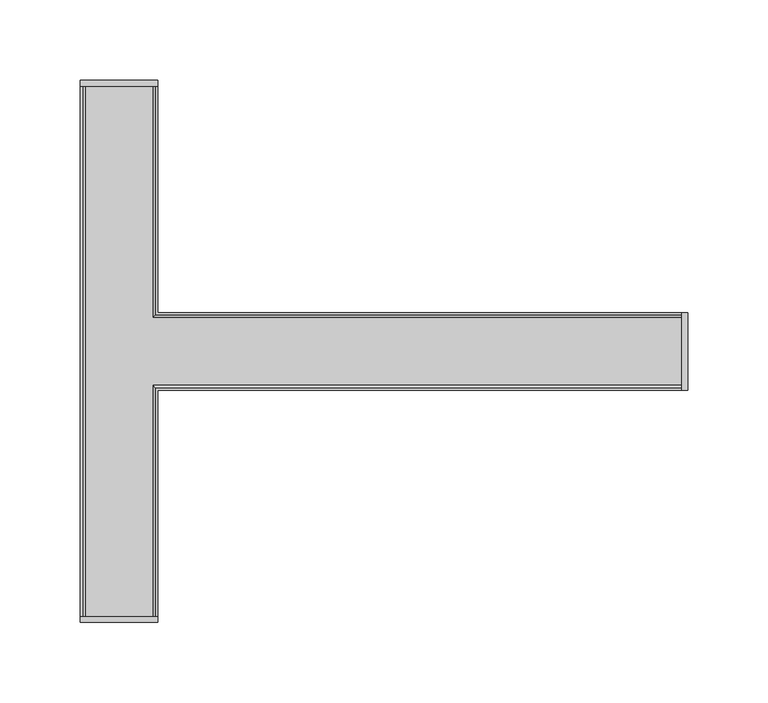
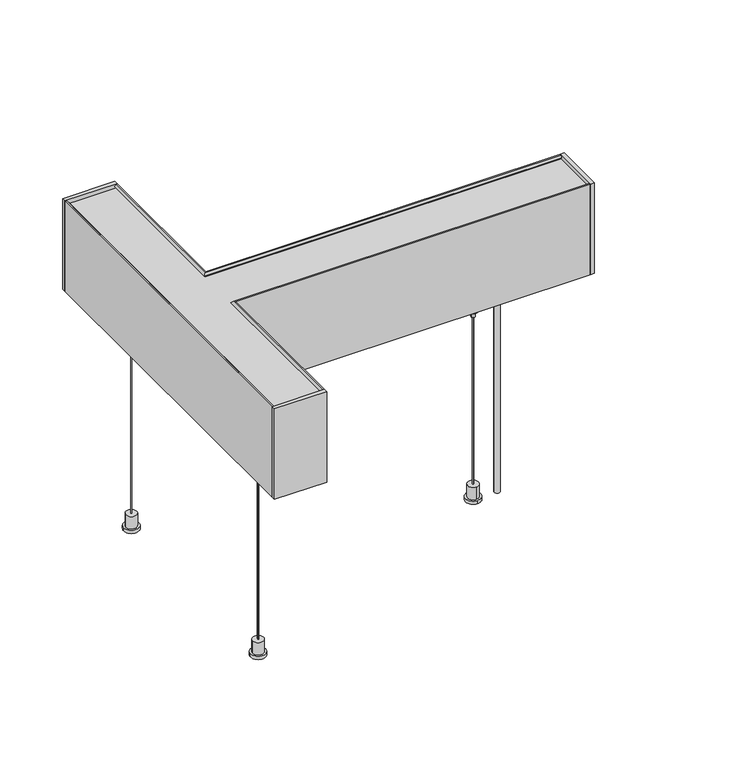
"""IFC4 building model written with IfcOpenShell, lengths in millimetres: light fixture geometry, KLUŚ - SERPENT - ZW T90 : Silver Anodized - 3000 K - 1780 lm - up, down."""

from ifc_helpers import new_model, si_unit, point, frame, frame_2d, origin, origin_with_axes, place, context, project, spatial, polyline, circle_curve, trimmed, segment, composite_curve, outline, extrude, faceted_brep, source, transform, mapped, element, save
from ifc_brep_helpers import plane_surface, revolved_surface, advanced_brep


def light_fixture_87ece87d(model_context):
    return source(origin(), model_context, "Body", "SolidModel", [
        extrude(outline(polyline([(190.5, 24.0), (190.5, -24.0), (187.0, -24.0), (187.0, 24.0), (190.5, 24.0)])), frame((0.0, 0.0, 200.0), z_axis=(0.0, 0.0, 1.0), x_axis=(1.0, 0.0, 0.0)), (0.0, 0.0, 1.0), 88.0),
        extrude(outline(polyline([(-139.0, -168.5), (-187.0, -168.5), (-187.0, -165.0), (-139.0, -165.0), (-139.0, -168.5)])), frame((0.0, 0.0, 200.0), z_axis=(0.0, 0.0, 1.0), x_axis=(1.0, 0.0, 0.0)), (0.0, 0.0, 1.0), 88.0),
        advanced_brep(
        [(-167.0, 101.0, 195.8), (-167.0, 101.0, 195.0), (-159.0, 101.0, 195.0), (-159.0, 101.0, 195.8), (-177.0, 87.0, 195.0), (-149.0, 87.0, 195.0), (-143.05, 87.0, 200.3344882), (-143.05, 87.0, 209.5), (-143.85, 87.0, 209.5), (-143.85, 87.0, 200.691693), (-149.3061136, 87.0, 195.8), (-176.6938864, 87.0, 195.8), (-182.15, 87.0, 200.691693), (-182.15, 87.0, 209.5), (-182.95, 87.0, 209.5), (-182.95, 87.0, 200.3344882), (-177.0, 115.0, 195.0), (-182.95, 115.0, 200.3344882), (-182.95, 115.0, 209.5), (-182.15, 115.0, 209.5), (-182.15, 115.0, 200.691693), (-176.6938864, 115.0, 195.8), (-149.3061136, 115.0, 195.8), (-143.85, 115.0, 200.691693), (-143.85, 115.0, 209.5), (-143.05, 115.0, 209.5), (-143.05, 115.0, 200.3344882), (-149.0, 115.0, 195.0)],
        [
            (0, 1),
            (1, 2, circle_curve(frame((-163.0, 101.0, 195.0), z_axis=(0.0, 0.0, -1.0), x_axis=(-1.0, 0.0, 0.0)), 4.0)),
            (2, 3),
            (3, 0, circle_curve(frame((-163.0, 101.0, 195.8), z_axis=(0.0, 0.0, 1.0), x_axis=(-1.0, 0.0, 0.0)), 4.0)),
            (0, 3, circle_curve(frame((-163.0, 101.0, 195.8), z_axis=(0.0, 0.0, 1.0), x_axis=(-1.0, 0.0, 0.0)), 4.0)),
            (2, 1, circle_curve(frame((-163.0, 101.0, 195.0), z_axis=(0.0, 0.0, -1.0), x_axis=(-1.0, 0.0, 0.0)), 4.0)),
            (4, 5),
            (5, 6),
            (6, 7),
            (7, 8),
            (8, 9),
            (9, 10),
            (10, 11),
            (11, 12),
            (12, 13),
            (13, 14),
            (14, 15),
            (15, 4),
            (16, 17),
            (17, 18),
            (18, 19),
            (19, 20),
            (20, 21),
            (21, 22),
            (22, 23),
            (23, 24),
            (24, 25),
            (25, 26),
            (26, 27),
            (27, 16),
            (4, 16),
            (27, 5),
            (26, 6),
            (25, 7),
            (24, 8),
            (23, 9),
            (22, 10),
            (21, 11),
            (20, 12),
            (19, 13),
            (18, 14),
            (17, 15),
        ],
        [
            revolved_surface(polyline([(-167.0, 101.0, 195.8), (-167.0, 101.0, 195.0)]), (-163.0, 101.0, 195.0), (0.0, 0.0, 1.0)),
            plane_surface(frame((-163.0, 87.0, 209.5), z_axis=(0.0, -1.0, 0.0), x_axis=(0.0, 0.0, 1.0))),
            plane_surface(frame((-163.0, 115.0, 209.5), z_axis=(0.0, 1.0, 0.0), x_axis=(0.0, 0.0, 1.0))),
            plane_surface(frame((-177.0, 87.0, 195.0), z_axis=(0.0, 0.0, -1.0), x_axis=(0.0, 1.0, 0.0))),
            plane_surface(frame((-149.0, 87.0, 195.0), z_axis=(0.6675453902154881, 0.0, -0.7445691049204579), x_axis=(0.0, 1.0, 0.0))),
            plane_surface(frame((-143.05, 87.0, 200.3344882), z_axis=(1.0, 0.0, 0.0), x_axis=(0.0, 1.0, 0.0))),
            plane_surface(frame((-143.05, 87.0, 209.5), z_axis=(0.0, 0.0, 1.0), x_axis=(0.0, 1.0, 0.0))),
            plane_surface(frame((-143.85, 87.0, 209.5), z_axis=(-1.0, 0.0, 0.0), x_axis=(0.0, 1.0, 0.0))),
            plane_surface(frame((-143.85, 87.0, 200.691693), z_axis=(-0.6675453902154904, 0.0, 0.7445691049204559), x_axis=(0.0, 1.0, 0.0))),
            plane_surface(frame((-149.3061136, 87.0, 195.8), z_axis=(0.0, 0.0, 1.0), x_axis=(0.0, 1.0, 0.0))),
            plane_surface(frame((-176.6938864, 87.0, 195.8), z_axis=(0.6675453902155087, 0.0, 0.7445691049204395), x_axis=(0.0, 1.0, 0.0))),
            plane_surface(frame((-182.15, 87.0, 200.691693), z_axis=(1.0, 0.0, 0.0), x_axis=(0.0, 1.0, 0.0))),
            plane_surface(frame((-182.15, 87.0, 209.5), z_axis=(0.0, 0.0, 1.0), x_axis=(0.0, 1.0, 0.0))),
            plane_surface(frame((-182.95, 87.0, 209.5), z_axis=(-1.0, 0.0, 0.0), x_axis=(0.0, 1.0, 0.0))),
            plane_surface(frame((-182.95, 87.0, 200.3344882), z_axis=(-0.6675453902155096, 0.0, -0.7445691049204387), x_axis=(0.0, 1.0, 0.0))),
        ],
        [
            (0, [[1, 2, 3, 4]]),
            (0, [[-1, 5, -3, 6]]),
            (1, [[7, 8, 9, 10, 11, 12, 13, 14, 15, 16, 17, 18]]),
            (2, [[19, 20, 21, 22, 23, 24, 25, 26, 27, 28, 29, 30]]),
            (3, [[-7, 31, -30, 32], [-2, -6]]),
            (4, [[-8, -32, -29, 33]]),
            (5, [[-9, -33, -28, 34]]),
            (6, [[-10, -34, -27, 35]]),
            (7, [[-11, -35, -26, 36]]),
            (8, [[-12, -36, -25, 37]]),
            (9, [[-13, -37, -24, 38], [-4, -5]]),
            (10, [[-14, -38, -23, 39]]),
            (11, [[-15, -39, -22, 40]]),
            (12, [[-16, -40, -21, 41]]),
            (13, [[-17, -41, -20, 42]]),
            (14, [[-18, -42, -19, -31]]),
        ],
    ),
        extrude(outline(composite_curve([segment(trimmed(circle_curve(frame_2d((-163.0, 101.0)), 0.5), [point((-162.5, 101.0))], [point((-163.5, 101.0))], False, "CARTESIAN"), True, "CONTINUOUS"), segment(trimmed(circle_curve(frame_2d((-163.0, 101.0)), 0.5), [point((-163.5, 101.0))], [point((-162.5, 101.0))], False, "CARTESIAN"), True, "CONTINUOUS")], self_intersect=False)), frame((0.0, 0.0, 15.0), z_axis=(0.0, 0.0, 1.0), x_axis=(1.0, 0.0, 0.0)), (0.0, 0.0, 1.0), 163.0),
        extrude(outline(composite_curve([segment(trimmed(circle_curve(frame_2d((-163.0, 101.0)), 5.0), [point((-158.0, 101.0))], [point((-168.0, 101.0))], False, "CARTESIAN"), True, "CONTINUOUS"), segment(trimmed(circle_curve(frame_2d((-163.0, 101.0)), 5.0), [point((-168.0, 101.0))], [point((-158.0, 101.0))], False, "CARTESIAN"), True, "CONTINUOUS")], self_intersect=False)), frame((0.0, 0.0, 3.0), z_axis=(0.0, 0.0, 1.0), x_axis=(1.0, 0.0, 0.0)), (0.0, 0.0, 1.0), 12.0),
        extrude(outline(composite_curve([segment(trimmed(circle_curve(frame_2d((-163.0, 101.0)), 7.0), [point((-156.0, 101.0))], [point((-170.0, 101.0))], False, "CARTESIAN"), True, "CONTINUOUS"), segment(trimmed(circle_curve(frame_2d((-163.0, 101.0)), 7.0), [point((-170.0, 101.0))], [point((-156.0, 101.0))], False, "CARTESIAN"), True, "CONTINUOUS")], self_intersect=False)), origin_with_axes(), (0.0, 0.0, 1.0), 3.0),
        extrude(outline(composite_curve([segment(trimmed(circle_curve(frame_2d((-163.0, 101.0)), 1.75), [point((-163.0, 102.75))], [point((-163.0, 99.25))], False, "CARTESIAN"), True, "CONTINUOUS"), segment(trimmed(circle_curve(frame_2d((-163.0, 101.0)), 1.75), [point((-163.0, 99.25))], [point((-163.0, 102.75))], False, "CARTESIAN"), True, "CONTINUOUS")], self_intersect=False)), frame((0.0, 0.0, 178.0), z_axis=(0.0, 0.0, 1.0), x_axis=(1.0, 0.0, 0.0)), (0.0, 0.0, 1.0), 5.0),
        extrude(outline(composite_curve([segment(trimmed(circle_curve(frame_2d((-163.0, 101.0)), 4.0), [point((-159.0, 101.0))], [point((-167.0, 101.0))], False, "CARTESIAN"), True, "CONTINUOUS"), segment(trimmed(circle_curve(frame_2d((-163.0, 101.0)), 4.0), [point((-167.0, 101.0))], [point((-159.0, 101.0))], False, "CARTESIAN"), True, "CONTINUOUS")], self_intersect=False)), frame((0.0, 0.0, 183.0), z_axis=(0.0, 0.0, 1.0), x_axis=(1.0, 0.0, 0.0)), (0.0, 0.0, 1.0), 12.8),
        extrude(outline(composite_curve([segment(trimmed(circle_curve(frame_2d((-163.0, 101.0)), 10.0), [point((-153.0, 101.0))], [point((-173.0, 101.0))], False, "CARTESIAN"), True, "CONTINUOUS"), segment(trimmed(circle_curve(frame_2d((-163.0, 101.0)), 10.0), [point((-173.0, 101.0))], [point((-153.0, 101.0))], False, "CARTESIAN"), True, "CONTINUOUS")], self_intersect=False)), frame((0.0, 0.0, 195.8), z_axis=(0.0, 0.0, 1.0), x_axis=(1.0, 0.0, 0.0)), (0.0, 0.0, 1.0), 2.0),
        advanced_brep(
        [(-167.0, -101.0, 195.8), (-167.0, -101.0, 195.0), (-159.0, -101.0, 195.0), (-159.0, -101.0, 195.8), (-177.0, -115.0, 195.0), (-149.0, -115.0, 195.0), (-143.05, -115.0, 200.3344882), (-143.05, -115.0, 209.5), (-143.85, -115.0, 209.5), (-143.85, -115.0, 200.691693), (-149.3061136, -115.0, 195.8), (-176.6938864, -115.0, 195.8), (-182.15, -115.0, 200.691693), (-182.15, -115.0, 209.5), (-182.95, -115.0, 209.5), (-182.95, -115.0, 200.3344882), (-177.0, -87.0, 195.0), (-182.95, -87.0, 200.3344882), (-182.95, -87.0, 209.5), (-182.15, -87.0, 209.5), (-182.15, -87.0, 200.691693), (-176.6938864, -87.0, 195.8), (-149.3061136, -87.0, 195.8), (-143.85, -87.0, 200.691693), (-143.85, -87.0, 209.5), (-143.05, -87.0, 209.5), (-143.05, -87.0, 200.3344882), (-149.0, -87.0, 195.0)],
        [
            (0, 1),
            (1, 2, circle_curve(frame((-163.0, -101.0, 195.0), z_axis=(0.0, 0.0, -1.0), x_axis=(-1.0, 0.0, 0.0)), 4.0)),
            (2, 3),
            (3, 0, circle_curve(frame((-163.0, -101.0, 195.8), z_axis=(0.0, 0.0, 1.0), x_axis=(-1.0, 0.0, 0.0)), 4.0)),
            (0, 3, circle_curve(frame((-163.0, -101.0, 195.8), z_axis=(0.0, 0.0, 1.0), x_axis=(-1.0, 0.0, 0.0)), 4.0)),
            (2, 1, circle_curve(frame((-163.0, -101.0, 195.0), z_axis=(0.0, 0.0, -1.0), x_axis=(-1.0, 0.0, 0.0)), 4.0)),
            (4, 5),
            (5, 6),
            (6, 7),
            (7, 8),
            (8, 9),
            (9, 10),
            (10, 11),
            (11, 12),
            (12, 13),
            (13, 14),
            (14, 15),
            (15, 4),
            (16, 17),
            (17, 18),
            (18, 19),
            (19, 20),
            (20, 21),
            (21, 22),
            (22, 23),
            (23, 24),
            (24, 25),
            (25, 26),
            (26, 27),
            (27, 16),
            (4, 16),
            (27, 5),
            (26, 6),
            (25, 7),
            (24, 8),
            (23, 9),
            (22, 10),
            (21, 11),
            (20, 12),
            (19, 13),
            (18, 14),
            (17, 15),
        ],
        [
            revolved_surface(polyline([(-167.0, -101.0, 195.8), (-167.0, -101.0, 195.0)]), (-163.0, -101.0, 195.0), (0.0, 0.0, 1.0)),
            plane_surface(frame((-163.0, -115.0, 209.5), z_axis=(0.0, -1.0, 0.0), x_axis=(0.0, 0.0, 1.0))),
            plane_surface(frame((-163.0, -87.0, 209.5), z_axis=(0.0, 1.0, 0.0), x_axis=(0.0, 0.0, 1.0))),
            plane_surface(frame((-177.0, -115.0, 195.0), z_axis=(0.0, 0.0, -1.0), x_axis=(0.0, 1.0, 0.0))),
            plane_surface(frame((-149.0, -115.0, 195.0), z_axis=(0.6675453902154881, 0.0, -0.7445691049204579), x_axis=(0.0, 1.0, 0.0))),
            plane_surface(frame((-143.05, -115.0, 200.3344882), z_axis=(1.0, 0.0, 0.0), x_axis=(0.0, 1.0, 0.0))),
            plane_surface(frame((-143.05, -115.0, 209.5), z_axis=(0.0, 0.0, 1.0), x_axis=(0.0, 1.0, 0.0))),
            plane_surface(frame((-143.85, -115.0, 209.5), z_axis=(-1.0, 0.0, 0.0), x_axis=(0.0, 1.0, 0.0))),
            plane_surface(frame((-143.85, -115.0, 200.691693), z_axis=(-0.6675453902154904, 0.0, 0.7445691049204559), x_axis=(0.0, 1.0, 0.0))),
            plane_surface(frame((-149.3061136, -115.0, 195.8), z_axis=(0.0, 0.0, 1.0), x_axis=(0.0, 1.0, 0.0))),
            plane_surface(frame((-176.6938864, -115.0, 195.8), z_axis=(0.6675453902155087, 0.0, 0.7445691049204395), x_axis=(0.0, 1.0, 0.0))),
            plane_surface(frame((-182.15, -115.0, 200.691693), z_axis=(1.0, 0.0, 0.0), x_axis=(0.0, 1.0, 0.0))),
            plane_surface(frame((-182.15, -115.0, 209.5), z_axis=(0.0, 0.0, 1.0), x_axis=(0.0, 1.0, 0.0))),
            plane_surface(frame((-182.95, -115.0, 209.5), z_axis=(-1.0, 0.0, 0.0), x_axis=(0.0, 1.0, 0.0))),
            plane_surface(frame((-182.95, -115.0, 200.3344882), z_axis=(-0.6675453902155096, 0.0, -0.7445691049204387), x_axis=(0.0, 1.0, 0.0))),
        ],
        [
            (0, [[1, 2, 3, 4]]),
            (0, [[-1, 5, -3, 6]]),
            (1, [[7, 8, 9, 10, 11, 12, 13, 14, 15, 16, 17, 18]]),
            (2, [[19, 20, 21, 22, 23, 24, 25, 26, 27, 28, 29, 30]]),
            (3, [[-7, 31, -30, 32], [-2, -6]]),
            (4, [[-8, -32, -29, 33]]),
            (5, [[-9, -33, -28, 34]]),
            (6, [[-10, -34, -27, 35]]),
            (7, [[-11, -35, -26, 36]]),
            (8, [[-12, -36, -25, 37]]),
            (9, [[-13, -37, -24, 38], [-4, -5]]),
            (10, [[-14, -38, -23, 39]]),
            (11, [[-15, -39, -22, 40]]),
            (12, [[-16, -40, -21, 41]]),
            (13, [[-17, -41, -20, 42]]),
            (14, [[-18, -42, -19, -31]]),
        ],
    ),
        extrude(outline(composite_curve([segment(trimmed(circle_curve(frame_2d((-163.0, -101.0)), 0.5), [point((-162.5, -101.0))], [point((-163.5, -101.0))], False, "CARTESIAN"), True, "CONTINUOUS"), segment(trimmed(circle_curve(frame_2d((-163.0, -101.0)), 0.5), [point((-163.5, -101.0))], [point((-162.5, -101.0))], False, "CARTESIAN"), True, "CONTINUOUS")], self_intersect=False)), frame((0.0, 0.0, 15.0), z_axis=(0.0, 0.0, 1.0), x_axis=(1.0, 0.0, 0.0)), (0.0, 0.0, 1.0), 163.0),
        extrude(outline(composite_curve([segment(trimmed(circle_curve(frame_2d((-163.0, -101.0)), 5.0), [point((-158.0, -101.0))], [point((-168.0, -101.0))], False, "CARTESIAN"), True, "CONTINUOUS"), segment(trimmed(circle_curve(frame_2d((-163.0, -101.0)), 5.0), [point((-168.0, -101.0))], [point((-158.0, -101.0))], False, "CARTESIAN"), True, "CONTINUOUS")], self_intersect=False)), frame((0.0, 0.0, 3.0), z_axis=(0.0, 0.0, 1.0), x_axis=(1.0, 0.0, 0.0)), (0.0, 0.0, 1.0), 12.0),
        extrude(outline(composite_curve([segment(trimmed(circle_curve(frame_2d((-163.0, -101.0)), 7.0), [point((-156.0, -101.0))], [point((-170.0, -101.0))], False, "CARTESIAN"), True, "CONTINUOUS"), segment(trimmed(circle_curve(frame_2d((-163.0, -101.0)), 7.0), [point((-170.0, -101.0))], [point((-156.0, -101.0))], False, "CARTESIAN"), True, "CONTINUOUS")], self_intersect=False)), origin_with_axes(), (0.0, 0.0, 1.0), 3.0),
        extrude(outline(composite_curve([segment(trimmed(circle_curve(frame_2d((-163.0, -101.0)), 1.75), [point((-163.0, -99.25))], [point((-163.0, -102.75))], False, "CARTESIAN"), True, "CONTINUOUS"), segment(trimmed(circle_curve(frame_2d((-163.0, -101.0)), 1.75), [point((-163.0, -102.75))], [point((-163.0, -99.25))], False, "CARTESIAN"), True, "CONTINUOUS")], self_intersect=False)), frame((0.0, 0.0, 178.0), z_axis=(0.0, 0.0, 1.0), x_axis=(1.0, 0.0, 0.0)), (0.0, 0.0, 1.0), 5.0),
        extrude(outline(composite_curve([segment(trimmed(circle_curve(frame_2d((-163.0, -101.0)), 4.0), [point((-159.0, -101.0))], [point((-167.0, -101.0))], False, "CARTESIAN"), True, "CONTINUOUS"), segment(trimmed(circle_curve(frame_2d((-163.0, -101.0)), 4.0), [point((-167.0, -101.0))], [point((-159.0, -101.0))], False, "CARTESIAN"), True, "CONTINUOUS")], self_intersect=False)), frame((0.0, 0.0, 183.0), z_axis=(0.0, 0.0, 1.0), x_axis=(1.0, 0.0, 0.0)), (0.0, 0.0, 1.0), 12.8),
        extrude(outline(composite_curve([segment(trimmed(circle_curve(frame_2d((-163.0, -101.0)), 10.0), [point((-153.0, -101.0))], [point((-173.0, -101.0))], False, "CARTESIAN"), True, "CONTINUOUS"), segment(trimmed(circle_curve(frame_2d((-163.0, -101.0)), 10.0), [point((-173.0, -101.0))], [point((-153.0, -101.0))], False, "CARTESIAN"), True, "CONTINUOUS")], self_intersect=False)), frame((0.0, 0.0, 195.8), z_axis=(0.0, 0.0, 1.0), x_axis=(1.0, 0.0, 0.0)), (0.0, 0.0, 1.0), 2.0),
        extrude(outline(polyline([(-187.0, 168.5), (-139.0, 168.5), (-139.0, 165.0), (-187.0, 165.0), (-187.0, 168.5)])), frame((0.0, 0.0, 200.0), z_axis=(0.0, 0.0, 1.0), x_axis=(1.0, 0.0, 0.0)), (0.0, 0.0, 1.0), 88.0),
        advanced_brep(
        [(93.0, 4.0, 195.8), (93.0, 4.0, 195.0), (93.0, -4.0, 195.0), (93.0, -4.0, 195.8), (79.0, 14.0, 195.0), (79.0, -14.0, 195.0), (79.0, -19.95, 200.3344882), (79.0, -19.95, 209.5), (79.0, -19.15, 209.5), (79.0, -19.15, 200.691693), (79.0, -13.6938864, 195.8), (79.0, 13.6938864, 195.8), (79.0, 19.15, 200.691693), (79.0, 19.15, 209.5), (79.0, 19.95, 209.5), (79.0, 19.95, 200.3344882), (107.0, 14.0, 195.0), (107.0, 19.95, 200.3344882), (107.0, 19.95, 209.5), (107.0, 19.15, 209.5), (107.0, 19.15, 200.691693), (107.0, 13.6938864, 195.8), (107.0, -13.6938864, 195.8), (107.0, -19.15, 200.691693), (107.0, -19.15, 209.5), (107.0, -19.95, 209.5), (107.0, -19.95, 200.3344882), (107.0, -14.0, 195.0)],
        [
            (0, 1),
            (1, 2, circle_curve(frame((93.0, 0.0, 195.0), z_axis=(0.0, 0.0, -1.0), x_axis=(0.0, 1.0, 0.0)), 4.0)),
            (2, 3),
            (3, 0, circle_curve(frame((93.0, 0.0, 195.8), z_axis=(0.0, 0.0, 1.0), x_axis=(0.0, 1.0, 0.0)), 4.0)),
            (0, 3, circle_curve(frame((93.0, 0.0, 195.8), z_axis=(0.0, 0.0, 1.0), x_axis=(0.0, 1.0, 0.0)), 4.0)),
            (2, 1, circle_curve(frame((93.0, 0.0, 195.0), z_axis=(0.0, 0.0, -1.0), x_axis=(0.0, 1.0, 0.0)), 4.0)),
            (4, 5),
            (5, 6),
            (6, 7),
            (7, 8),
            (8, 9),
            (9, 10),
            (10, 11),
            (11, 12),
            (12, 13),
            (13, 14),
            (14, 15),
            (15, 4),
            (16, 17),
            (17, 18),
            (18, 19),
            (19, 20),
            (20, 21),
            (21, 22),
            (22, 23),
            (23, 24),
            (24, 25),
            (25, 26),
            (26, 27),
            (27, 16),
            (4, 16),
            (27, 5),
            (26, 6),
            (25, 7),
            (24, 8),
            (23, 9),
            (22, 10),
            (21, 11),
            (20, 12),
            (19, 13),
            (18, 14),
            (17, 15),
        ],
        [
            revolved_surface(polyline([(93.0, 4.0, 195.8), (93.0, 4.0, 195.0)]), (93.0, 0.0, 195.0), (0.0, 0.0, 1.0)),
            plane_surface(frame((79.0, 0.0, 209.5), z_axis=(-1.0, 0.0, 0.0), x_axis=(0.0, 0.0, 1.0))),
            plane_surface(frame((107.0, 0.0, 209.5), z_axis=(1.0, 0.0, 0.0), x_axis=(0.0, 0.0, 1.0))),
            plane_surface(frame((79.0, 14.0, 195.0), z_axis=(0.0, 0.0, -1.0), x_axis=(1.0, 0.0, 0.0))),
            plane_surface(frame((79.0, -14.0, 195.0), z_axis=(0.0, -0.6675453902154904, -0.7445691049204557), x_axis=(1.0, 0.0, 0.0))),
            plane_surface(frame((79.0, -19.95, 200.3344882), z_axis=(0.0, -1.0, 0.0), x_axis=(1.0, 0.0, 0.0))),
            plane_surface(frame((79.0, -19.95, 209.5), z_axis=(0.0, 0.0, 1.0), x_axis=(1.0, 0.0, 0.0))),
            plane_surface(frame((79.0, -19.15, 209.5), z_axis=(0.0, 1.0, 0.0), x_axis=(1.0, 0.0, 0.0))),
            plane_surface(frame((79.0, -19.15, 200.691693), z_axis=(0.0, 0.6675453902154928, 0.7445691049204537), x_axis=(1.0, 0.0, 0.0))),
            plane_surface(frame((79.0, -13.6938864, 195.8), z_axis=(0.0, 0.0, 1.0), x_axis=(1.0, 0.0, 0.0))),
            plane_surface(frame((79.0, 13.6938864, 195.8), z_axis=(0.0, -0.6675453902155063, 0.7445691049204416), x_axis=(1.0, 0.0, 0.0))),
            plane_surface(frame((79.0, 19.15, 200.691693), z_axis=(0.0, -1.0, 0.0), x_axis=(1.0, 0.0, 0.0))),
            plane_surface(frame((79.0, 19.15, 209.5), z_axis=(0.0, 0.0, 1.0), x_axis=(1.0, 0.0, 0.0))),
            plane_surface(frame((79.0, 19.95, 209.5), z_axis=(0.0, 1.0, 0.0), x_axis=(1.0, 0.0, 0.0))),
            plane_surface(frame((79.0, 19.95, 200.3344882), z_axis=(0.0, 0.6675453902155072, -0.7445691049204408), x_axis=(1.0, 0.0, 0.0))),
        ],
        [
            (0, [[1, 2, 3, 4]]),
            (0, [[-1, 5, -3, 6]]),
            (1, [[7, 8, 9, 10, 11, 12, 13, 14, 15, 16, 17, 18]]),
            (2, [[19, 20, 21, 22, 23, 24, 25, 26, 27, 28, 29, 30]]),
            (3, [[-7, 31, -30, 32], [-2, -6]]),
            (4, [[-8, -32, -29, 33]]),
            (5, [[-9, -33, -28, 34]]),
            (6, [[-10, -34, -27, 35]]),
            (7, [[-11, -35, -26, 36]]),
            (8, [[-12, -36, -25, 37]]),
            (9, [[-13, -37, -24, 38], [-4, -5]]),
            (10, [[-14, -38, -23, 39]]),
            (11, [[-15, -39, -22, 40]]),
            (12, [[-16, -40, -21, 41]]),
            (13, [[-17, -41, -20, 42]]),
            (14, [[-18, -42, -19, -31]]),
        ],
    ),
        extrude(outline(composite_curve([segment(trimmed(circle_curve(frame_2d((93.0, 0.0)), 0.5), [point((93.0, -0.5))], [point((93.0, 0.5))], False, "CARTESIAN"), True, "CONTINUOUS"), segment(trimmed(circle_curve(frame_2d((93.0, 0.0)), 0.5), [point((93.0, 0.5))], [point((93.0, -0.5))], False, "CARTESIAN"), True, "CONTINUOUS")], self_intersect=False)), frame((0.0, 0.0, 15.0), z_axis=(0.0, 0.0, 1.0), x_axis=(1.0, 0.0, 0.0)), (0.0, 0.0, 1.0), 163.0),
        extrude(outline(composite_curve([segment(trimmed(circle_curve(frame_2d((93.0, 0.0)), 5.0), [point((93.0, -5.0))], [point((93.0, 5.0))], False, "CARTESIAN"), True, "CONTINUOUS"), segment(trimmed(circle_curve(frame_2d((93.0, 0.0)), 5.0), [point((93.0, 5.0))], [point((93.0, -5.0))], False, "CARTESIAN"), True, "CONTINUOUS")], self_intersect=False)), frame((0.0, 0.0, 3.0), z_axis=(0.0, 0.0, 1.0), x_axis=(1.0, 0.0, 0.0)), (0.0, 0.0, 1.0), 12.0),
        extrude(outline(composite_curve([segment(trimmed(circle_curve(frame_2d((93.0, 0.0)), 7.0), [point((93.0, -7.0))], [point((93.0, 7.0))], False, "CARTESIAN"), True, "CONTINUOUS"), segment(trimmed(circle_curve(frame_2d((93.0, 0.0)), 7.0), [point((93.0, 7.0))], [point((93.0, -7.0))], False, "CARTESIAN"), True, "CONTINUOUS")], self_intersect=False)), origin_with_axes(), (0.0, 0.0, 1.0), 3.0),
        extrude(outline(composite_curve([segment(trimmed(circle_curve(frame_2d((93.0, 0.0)), 1.75), [point((94.75, 0.0))], [point((91.25, 0.0))], False, "CARTESIAN"), True, "CONTINUOUS"), segment(trimmed(circle_curve(frame_2d((93.0, 0.0)), 1.75), [point((91.25, 0.0))], [point((94.75, 0.0))], False, "CARTESIAN"), True, "CONTINUOUS")], self_intersect=False)), frame((0.0, 0.0, 178.0), z_axis=(0.0, 0.0, 1.0), x_axis=(1.0, 0.0, 0.0)), (0.0, 0.0, 1.0), 5.0),
        extrude(outline(composite_curve([segment(trimmed(circle_curve(frame_2d((93.0, 0.0)), 4.0), [point((93.0, -4.0))], [point((93.0, 4.0))], False, "CARTESIAN"), True, "CONTINUOUS"), segment(trimmed(circle_curve(frame_2d((93.0, 0.0)), 4.0), [point((93.0, 4.0))], [point((93.0, -4.0))], False, "CARTESIAN"), True, "CONTINUOUS")], self_intersect=False)), frame((0.0, 0.0, 183.0), z_axis=(0.0, 0.0, 1.0), x_axis=(1.0, 0.0, 0.0)), (0.0, 0.0, 1.0), 12.8),
        extrude(outline(composite_curve([segment(trimmed(circle_curve(frame_2d((93.0, 0.0)), 10.0), [point((93.0, -10.0))], [point((93.0, 10.0))], False, "CARTESIAN"), True, "CONTINUOUS"), segment(trimmed(circle_curve(frame_2d((93.0, 0.0)), 10.0), [point((93.0, 10.0))], [point((93.0, -10.0))], False, "CARTESIAN"), True, "CONTINUOUS")], self_intersect=False)), frame((0.0, 0.0, 195.8), z_axis=(0.0, 0.0, 1.0), x_axis=(1.0, 0.0, 0.0)), (0.0, 0.0, 1.0), 2.0),
        faceted_brep([(-143.05, -165.0, 200.0), (-139.0, -165.0, 200.0), (-139.0, -165.0, 288.0), (-140.35, -165.0, 288.0), (-141.85, -165.0, 286.2514719), (-140.35, -165.0, 284.5), (-140.35, -165.0, 208.7), (-143.05, -165.0, 208.7), (187.0, -19.95, 200.0), (187.0, -19.95, 208.7), (187.0, -22.65, 208.7), (187.0, -22.65, 284.5), (187.0, -21.15, 286.2514719), (187.0, -22.65, 288.0), (187.0, -24.0, 288.0), (187.0, -24.0, 200.0), (-143.05, -19.95, 200.0), (-143.05, -19.95, 208.7), (-140.35, -22.65, 208.7), (-140.35, -22.65, 284.5), (-141.85, -21.15, 286.2514719), (-140.35, -22.65, 288.0), (-139.0, -24.0, 288.0), (-139.0, -24.0, 200.0)], [[[0, 1, 2, 3, 4, 5, 6, 7]], [[8, 9, 10, 11, 12, 13, 14, 15]], [[16, 17, 9, 8]], [[18, 19, 11, 10]], [[19, 20, 12, 11]], [[20, 21, 13, 12]], [[22, 23, 15, 14]], [[0, 7, 17, 16]], [[7, 6, 18, 10, 9, 17]], [[6, 5, 19, 18]], [[5, 4, 20, 19]], [[4, 3, 21, 20]], [[3, 2, 22, 14, 13, 21]], [[2, 1, 23, 22]], [[1, 0, 16, 8, 15, 23]]]),
        faceted_brep([(-143.05, 165.0, 200.0), (-143.05, 165.0, 208.7), (-140.35, 165.0, 208.7), (-140.35, 165.0, 284.5), (-141.85, 165.0, 286.2514719), (-140.35, 165.0, 288.0), (-139.0, 165.0, 288.0), (-139.0, 165.0, 200.0), (187.0, 19.95, 200.0), (187.0, 24.0, 200.0), (187.0, 24.0, 288.0), (187.0, 22.65, 288.0), (187.0, 21.15, 286.2514719), (187.0, 22.65, 284.5), (187.0, 22.65, 208.7), (187.0, 19.95, 208.7), (-143.05, 19.95, 208.7), (-143.05, 19.95, 200.0), (-140.35, 22.65, 284.5), (-140.35, 22.65, 208.7), (-141.85, 21.15, 286.2514719), (-140.35, 22.65, 288.0), (-139.0, 24.0, 200.0), (-139.0, 24.0, 288.0)], [[[0, 1, 2, 3, 4, 5, 6, 7]], [[8, 9, 10, 11, 12, 13, 14, 15]], [[16, 17, 8, 15]], [[18, 19, 14, 13]], [[20, 18, 13, 12]], [[21, 20, 12, 11]], [[22, 23, 10, 9]], [[1, 0, 17, 16]], [[2, 1, 16, 15, 14, 19]], [[3, 2, 19, 18]], [[4, 3, 18, 20]], [[5, 4, 20, 21]], [[6, 5, 21, 11, 10, 23]], [[7, 6, 23, 22]], [[0, 7, 22, 9, 8, 17]]]),
        extrude(outline(polyline([(187.0, 22.65), (187.0, -22.65), (-140.35, -22.65), (-140.35, -165.0), (-185.65, -165.0), (-185.65, 165.0), (-140.35, 165.0), (-140.35, 22.65), (187.0, 22.65)])), frame((0.0, 0.0, 209.5), z_axis=(0.0, 0.0, 1.0), x_axis=(1.0, 0.0, 0.0)), (0.0, 0.0, 1.0), 1.5),
        extrude(outline(polyline([(187.0, 22.65), (187.0, -22.65), (-140.35, -22.65), (-140.35, -165.0), (-185.65, -165.0), (-185.65, 165.0), (-140.35, 165.0), (-140.35, 22.65), (187.0, 22.65)])), frame((0.0, 0.0, 219.0), z_axis=(0.0, 0.0, 1.0), x_axis=(1.0, 0.0, 0.0)), (0.0, 0.0, 1.0), 2.0),
        extrude(outline(polyline([(187.0, 22.65), (187.0, -22.65), (-140.35, -22.65), (-140.35, -165.0), (-185.65, -165.0), (-185.65, 165.0), (-140.35, 165.0), (-140.35, 22.65), (187.0, 22.65)])), frame((0.0, 0.0, 254.5), z_axis=(0.0, 0.0, 1.0), x_axis=(1.0, 0.0, 0.0)), (0.0, 0.0, 1.0), 1.5),
        extrude(outline(polyline([(-185.65, 165.0), (-140.35, 165.0), (-140.35, 22.65), (187.0, 22.65), (187.0, -22.65), (-140.35, -22.65), (-140.35, -165.0), (-185.65, -165.0), (-185.65, 165.0)])), frame((0.0, 0.0, 283.0), z_axis=(0.0, 0.0, 1.0), x_axis=(1.0, 0.0, 0.0)), (0.0, 0.0, 1.0), 1.5),
        extrude(outline(polyline([(200.0, -182.95), (208.7, -182.95), (208.7, -185.65), (284.5, -185.65), (286.1989148, -184.1049132), (288.0, -185.65), (288.0, -187.0), (200.0, -187.0), (200.0, -182.95)])), frame((0.0, -165.0, 0.0), z_axis=(0.0, 1.0, 0.0), x_axis=(0.0, 0.0, 1.0)), (0.0, 0.0, 1.0), 330.0),
        extrude(outline(composite_curve([segment(trimmed(circle_curve(frame_2d((115.0, 0.0)), 2.5), [point((117.5, 0.0))], [point((112.5, 0.0))], False, "CARTESIAN"), True, "CONTINUOUS"), segment(trimmed(circle_curve(frame_2d((115.0, 0.0)), 2.5), [point((112.5, 0.0))], [point((117.5, 0.0))], False, "CARTESIAN"), True, "CONTINUOUS")], self_intersect=False)), origin_with_axes(), (0.0, 0.0, 1.0), 219.0),
    ])


if __name__ == "__main__":
    model = new_model("IFC4")
    model_context = context("Model", 3, world=origin())
    ifc_project = project(units=[si_unit("LENGTHUNIT", "METRE", prefix="MILLI")], contexts=[model_context])
    site = spatial("IfcSite", under=ifc_project)
    building = spatial("IfcBuilding", under=site)
    placement = place(None, origin())
    light_fixture_shape = light_fixture_87ece87d(model_context)
    element("IfcLightFixture", 1, ObjectType="KLUŚ - SERPENT - ZW T90 : Silver Anodized - 3000 K - 1780 lm - up, down", at=placement, inside=building, context=model_context, shape_type="MappedRepresentation", body=[
        mapped(light_fixture_shape, transform((0.0, 0.0, 0.0), x_axis=(1.0, 0.0, 0.0), y_axis=(0.0, 1.0, 0.0), z_axis=(0.0, 0.0, 1.0))),
    ])
    save(model, "model.ifc")
